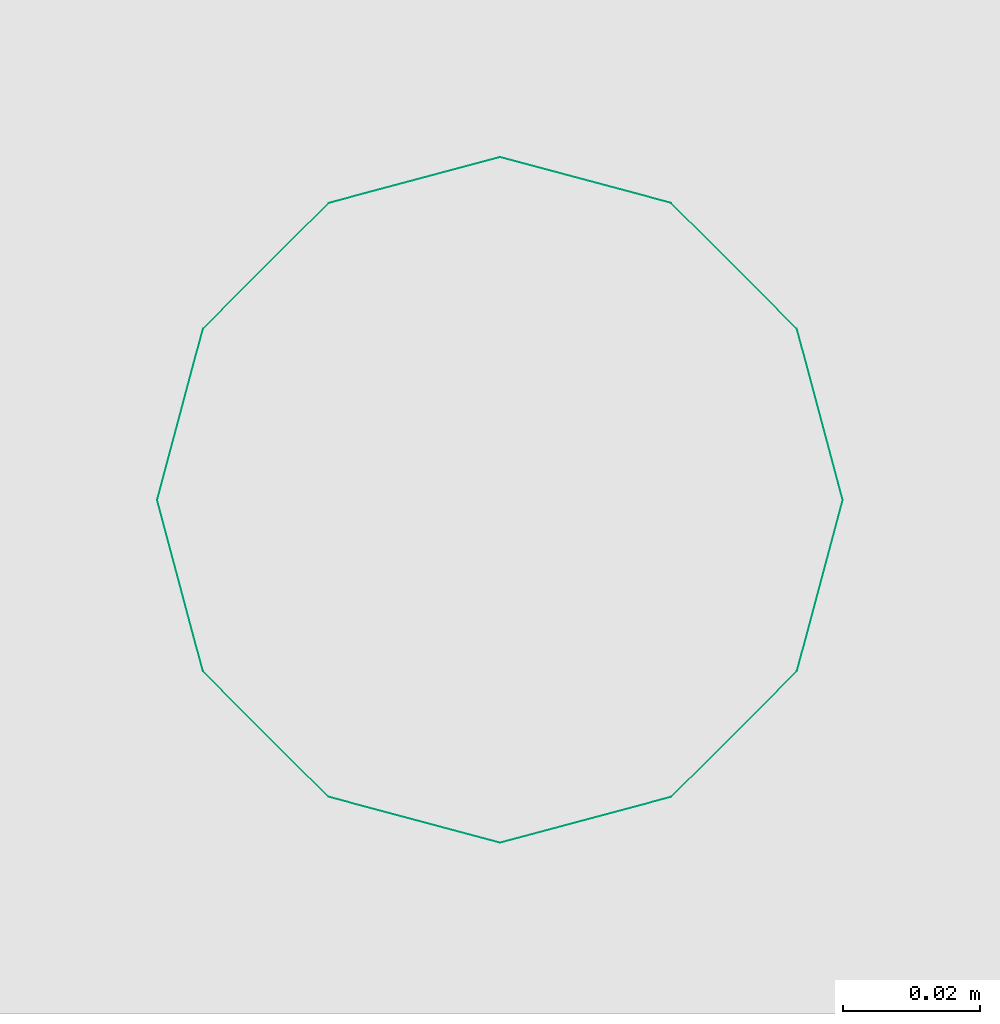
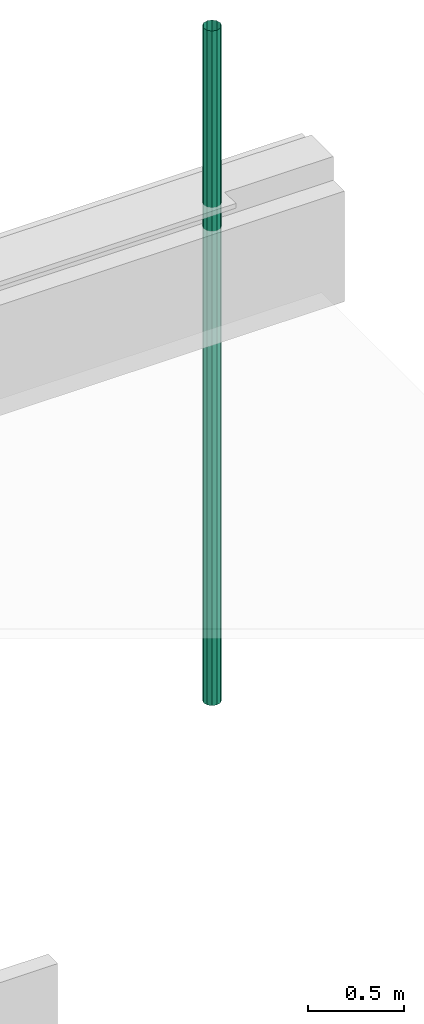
# One storey, part 13 of 13: 1 distribution flow element.
"""IFC2X3 building model written with IfcOpenShell, lengths in millimetres."""

from ifc_helpers import new_model, entity, si_unit, converted_unit, derived_unit, money_unit, direction, frame, origin_with_axes, place, context, subcontext, project, spatial, open_shell, surface_model, source, transform, mapped, type_object, type_shapes, element, save


model = new_model("IFC2X3")

# Units and contexts
model_context = context("Model", 3, precision=0.01, world=origin_with_axes(), true_north=direction((0.0, 1.0)))
body_context = subcontext(model_context, "Body", "Model", "MODEL_VIEW")
ifc_project = project(units=[si_unit("LENGTHUNIT", "METRE", prefix="MILLI"), si_unit("AREAUNIT", "SQUARE_METRE"), si_unit("VOLUMEUNIT", "CUBIC_METRE"), converted_unit("PLANEANGLEUNIT", "DEGREE", entity("IfcPlaneAngleMeasure", 0.0174532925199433), si_unit("PLANEANGLEUNIT", "RADIAN"), dimensions=[0, 0, 0, 0, 0, 0, 0]), money_unit("EUR"), converted_unit("TIMEUNIT", "Year", entity("IfcTimeMeasure", 31557600.0), si_unit("TIMEUNIT", "SECOND"), dimensions=[0, 0, 1, 0, 0, 0, 0]), si_unit("MASSUNIT", "GRAM", prefix="KILO"), si_unit("THERMODYNAMICTEMPERATUREUNIT", "DEGREE_CELSIUS"), si_unit("LUMINOUSINTENSITYUNIT", "LUMEN"), si_unit("ENERGYUNIT", "JOULE", prefix="MEGA"), derived_unit("THERMALCONDUCTANCEUNIT", [(si_unit("POWERUNIT", "WATT"), 1), (si_unit("LENGTHUNIT", "METRE"), -1), (si_unit("THERMODYNAMICTEMPERATUREUNIT", "KELVIN"), -1)]), derived_unit("SPECIFICHEATCAPACITYUNIT", [(si_unit("ENERGYUNIT", "JOULE"), 1), (si_unit("MASSUNIT", "GRAM", prefix="KILO"), -1), (si_unit("THERMODYNAMICTEMPERATUREUNIT", "KELVIN"), -1)]), derived_unit("MASSDENSITYUNIT", [(si_unit("MASSUNIT", "GRAM", prefix="KILO"), 1), (si_unit("VOLUMEUNIT", "CUBIC_METRE"), -1)])], contexts=[model_context])

# Site, building, storey
site_placement = place(None, origin_with_axes())
site = spatial("IfcSite", under=ifc_project, at=site_placement, Name="<site naam>", CompositionType="ELEMENT")
building_placement = place(site_placement, origin_with_axes())
building = spatial("IfcBuilding", under=site, at=building_placement, Name="<Naam gebouw>", CompositionType="ELEMENT")
storey_placement = place(building_placement, frame((0.0, 0.0, 3188.0), z_axis=(0.0, 0.0, 1.0), x_axis=(1.0, 0.0, 0.0)))
storey = spatial("IfcBuildingStorey", under=building, at=storey_placement, Name="01 1e tussenverdieping", CompositionType="ELEMENT", Elevation=3188.0)

# Distribution flow element
valve_type = type_object("IfcValveType", Name="Regenpijp 27", PredefinedType="AIRRELEASE")
shared_shape = source(origin_with_axes(), body_context, "Body", "SurfaceModel", [
    surface_model("IfcShellBasedSurfaceModel", [(-50.0, -30.0, 4272.999999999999), (-50.0, -30.0, 0.0), (-43.30127018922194, -54.99999999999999, 0.0), (-43.30127018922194, -54.99999999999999, 4272.999999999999), (-43.30127018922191, -4.999999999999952, 4272.999999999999), (-43.30127018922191, -4.999999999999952, 0.0), (-25.00000000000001, -73.30127018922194, 0.0), (-25.00000000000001, -73.30127018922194, 4272.999999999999), (-24.99999999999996, 13.30127018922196, 4272.999999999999), (-24.99999999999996, 13.30127018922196, 0.0), (0.0, -80.0, 0.0), (0.0, -80.0, 4272.999999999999), (0.0, 20.0, 4272.999999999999), (0.0, 20.0, 0.0), (24.99999999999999, -73.30127018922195, 0.0), (24.99999999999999, -73.30127018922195, 4272.999999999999), (25.00000000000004, 13.30127018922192, 4272.999999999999), (25.00000000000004, 13.30127018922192, 0.0), (43.30127018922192, -55.00000000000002, 0.0), (43.30127018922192, -55.00000000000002, 4272.999999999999), (43.30127018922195, -5.000000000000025, 4272.999999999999), (43.30127018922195, -5.000000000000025, 0.0), (50.0, -30.00000000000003, 0.0), (50.0, -30.00000000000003, 4272.999999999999)], [open_shell([[[0, 1, 2, 3]], [[4, 5, 1, 0]], [[3, 2, 6, 7]], [[8, 9, 5, 4]], [[7, 6, 10, 11]], [[12, 13, 9, 8]], [[11, 10, 14, 15]], [[16, 17, 13, 12]], [[15, 14, 18, 19]], [[20, 21, 17, 16]], [[19, 18, 22, 23]], [[23, 22, 21, 20]]])]),
])
type_shapes(valve_type, [shared_shape])
distribution_flow_element_placement = place(storey_placement, frame((69225.000113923, 19929.9683199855, 0.0), z_axis=(0.0, 0.0, 1.0), x_axis=(1.0, 0.0, 0.0)))
element("IfcDistributionFlowElement", 1, at=distribution_flow_element_placement, inside=storey, type_object=valve_type, Name="52_Wasmachine_Lege", context=body_context, shape_type="MappedRepresentation", body=[
    mapped(shared_shape, transform((0.0, 0.0, 0.0))),
])

save(model, "model.ifc")
